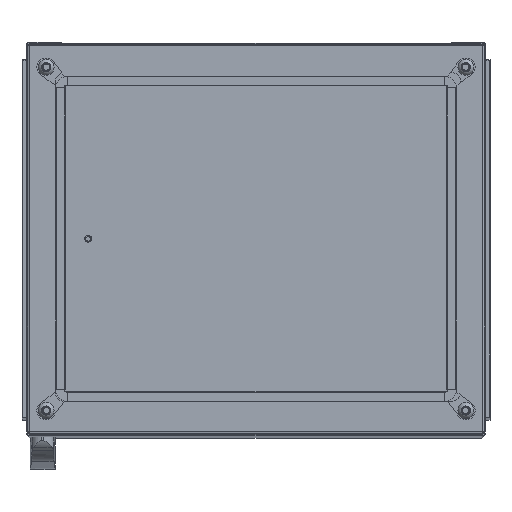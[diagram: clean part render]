
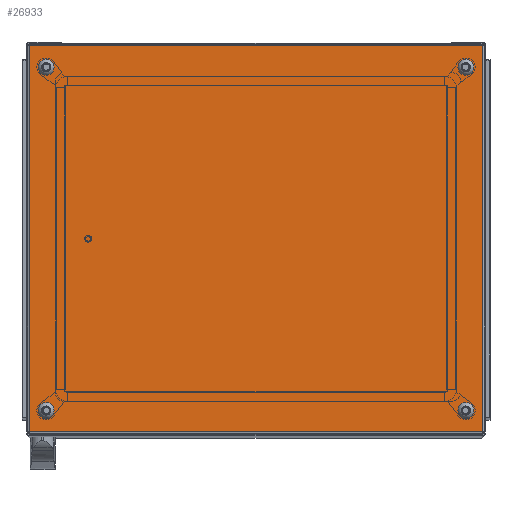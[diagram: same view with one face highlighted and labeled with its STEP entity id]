
A CAD part, top view. The second image highlights one B-rep face of the part: STEP entity #26933.
In plain terms, the highlighted planar face has unit normal (0, 0, 1).
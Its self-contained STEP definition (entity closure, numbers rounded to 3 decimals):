
#1331=CIRCLE('',#28929,6.);
#1332=CIRCLE('',#28930,6.);
#1333=CIRCLE('',#28931,6.);
#1334=CIRCLE('',#28932,6.);
#5087=ORIENTED_EDGE('',*,*,#11481,.F.);
#5088=ORIENTED_EDGE('',*,*,#11482,.F.);
#5089=ORIENTED_EDGE('',*,*,#11483,.F.);
#5090=ORIENTED_EDGE('',*,*,#11484,.F.);
#5091=ORIENTED_EDGE('',*,*,#11470,.T.);
#5092=ORIENTED_EDGE('',*,*,#11478,.T.);
#5093=ORIENTED_EDGE('',*,*,#11441,.F.);
#5094=ORIENTED_EDGE('',*,*,#11485,.F.);
#11441=EDGE_CURVE('',#14873,#14874,#17561,.T.);
#11470=EDGE_CURVE('',#14895,#14894,#17567,.T.);
#11478=EDGE_CURVE('',#14894,#14874,#17572,.T.);
#11481=EDGE_CURVE('',#14896,#14896,#1331,.T.);
#11482=EDGE_CURVE('',#14897,#14897,#1332,.T.);
#11483=EDGE_CURVE('',#14898,#14898,#1333,.T.);
#11484=EDGE_CURVE('',#14899,#14899,#1334,.T.);
#11485=EDGE_CURVE('',#14895,#14873,#17575,.T.);
#14873=VERTEX_POINT('',#42057);
#14874=VERTEX_POINT('',#42059);
#14894=VERTEX_POINT('',#42133);
#14895=VERTEX_POINT('',#42135);
#14896=VERTEX_POINT('',#42152);
#14897=VERTEX_POINT('',#42154);
#14898=VERTEX_POINT('',#42156);
#14899=VERTEX_POINT('',#42158);
#17561=LINE('',#42058,#19906);
#17567=LINE('',#42134,#19912);
#17572=LINE('',#42146,#19917);
#17575=LINE('',#42159,#19920);
#19906=VECTOR('',#33707,1000.);
#19912=VECTOR('',#33761,1000.);
#19917=VECTOR('',#33778,1000.);
#19920=VECTOR('',#33793,1000.);
#21949=EDGE_LOOP('',(#5087));
#21950=EDGE_LOOP('',(#5088));
#21951=EDGE_LOOP('',(#5089));
#21952=EDGE_LOOP('',(#5090));
#21953=EDGE_LOOP('',(#5091,#5092,#5093,#5094));
#24156=FACE_BOUND('',#21949,.T.);
#24157=FACE_BOUND('',#21950,.T.);
#24158=FACE_BOUND('',#21951,.T.);
#24159=FACE_BOUND('',#21952,.T.);
#24160=FACE_BOUND('',#21953,.T.);
#26020=PLANE('',#28928);
#26933=ADVANCED_FACE('',(#24156,#24157,#24158,#24159,#24160),#26020,.T.);
#28928=AXIS2_PLACEMENT_3D('',#42150,#33783,#33784);
#28929=AXIS2_PLACEMENT_3D('',#42151,#33785,#33786);
#28930=AXIS2_PLACEMENT_3D('',#42153,#33787,#33788);
#28931=AXIS2_PLACEMENT_3D('',#42155,#33789,#33790);
#28932=AXIS2_PLACEMENT_3D('',#42157,#33791,#33792);
#33707=DIRECTION('',(-1.,0.,0.));
#33761=DIRECTION('',(-1.,0.,0.));
#33778=DIRECTION('',(0.,-1.,0.));
#33783=DIRECTION('',(0.,0.,1.));
#33784=DIRECTION('',(1.,0.,0.));
#33785=DIRECTION('',(0.,0.,1.));
#33786=DIRECTION('',(1.,0.,0.));
#33787=DIRECTION('',(0.,0.,1.));
#33788=DIRECTION('',(1.,0.,0.));
#33789=DIRECTION('',(0.,0.,1.));
#33790=DIRECTION('',(1.,0.,0.));
#33791=DIRECTION('',(0.,0.,1.));
#33792=DIRECTION('',(1.,0.,0.));
#33793=DIRECTION('',(0.,-1.,0.));
#42057=CARTESIAN_POINT('',(296.5,-252.5,20.));
#42058=CARTESIAN_POINT('',(300.,-252.5,20.));
#42059=CARTESIAN_POINT('',(-296.5,-252.5,20.));
#42133=CARTESIAN_POINT('',(-296.5,252.5,20.));
#42134=CARTESIAN_POINT('',(300.,252.5,20.));
#42135=CARTESIAN_POINT('',(296.5,252.5,20.));
#42146=CARTESIAN_POINT('',(-296.5,255.5,20.));
#42150=CARTESIAN_POINT('',(-296.5,-252.5,20.));
#42151=CARTESIAN_POINT('',(274.5,-224.5,20.));
#42152=CARTESIAN_POINT('',(280.5,-224.5,20.));
#42153=CARTESIAN_POINT('',(-274.5,224.5,20.));
#42154=CARTESIAN_POINT('',(-268.5,224.5,20.));
#42155=CARTESIAN_POINT('',(274.5,224.5,20.));
#42156=CARTESIAN_POINT('',(280.5,224.5,20.));
#42157=CARTESIAN_POINT('',(-274.5,-224.5,20.));
#42158=CARTESIAN_POINT('',(-268.5,-224.5,20.));
#42159=CARTESIAN_POINT('',(296.5,255.5,20.));
